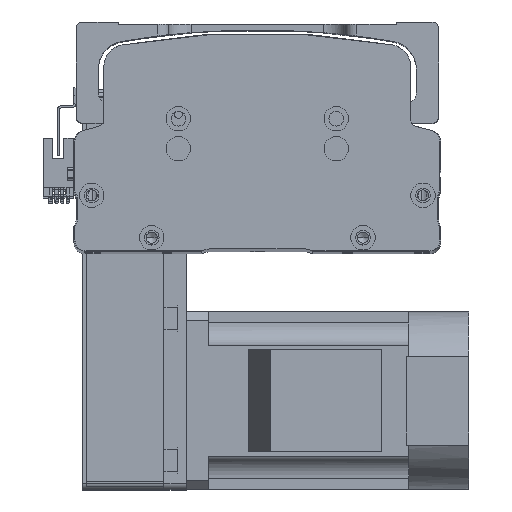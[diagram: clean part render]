
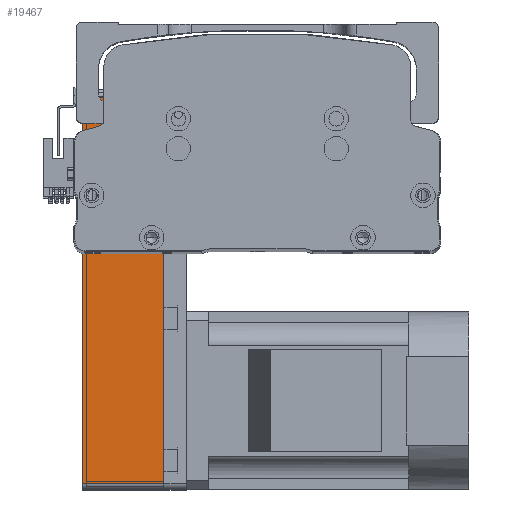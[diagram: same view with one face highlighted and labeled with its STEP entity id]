
A CAD part, top view. The second image highlights one B-rep face of the part: STEP entity #19467.
In plain terms, the highlighted planar face has unit normal (0, 0, 1) as drawn and (0, 1, 0) by its records, which use the part's own axes.
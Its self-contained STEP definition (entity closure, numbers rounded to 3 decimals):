
#863 = VECTOR ( 'NONE', #33488, 1000. ) ;
#1543 = VECTOR ( 'NONE', #54581, 1000. ) ;
#2127 = CARTESIAN_POINT ( 'NONE',  ( -87., 40., 0. ) ) ;
#3218 = VECTOR ( 'NONE', #17682, 1000. ) ;
#3476 = CARTESIAN_POINT ( 'NONE',  ( 87., 40., 36.5 ) ) ;
#3749 = DIRECTION ( 'NONE',  ( -1., 0., 0. ) ) ;
#7232 = PLANE ( 'NONE',  #52583 ) ;
#9280 = EDGE_CURVE ( 'NONE', #15913, #13085, #50510, .T. ) ;
#10307 = CARTESIAN_POINT ( 'NONE',  ( 87., 40., 0. ) ) ;
#10448 = ORIENTED_EDGE ( 'NONE', *, *, #37243, .T. ) ;
#11007 = CARTESIAN_POINT ( 'NONE',  ( 87., 40., 36.5 ) ) ;
#11866 = VECTOR ( 'NONE', #3749, 1000. ) ;
#13085 = VERTEX_POINT ( 'NONE', #40908 ) ;
#14398 = LINE ( 'NONE', #11007, #1543 ) ;
#15913 = VERTEX_POINT ( 'NONE', #3476 ) ;
#16069 = LINE ( 'NONE', #32078, #3218 ) ;
#16938 = DIRECTION ( 'NONE',  ( 0., -1., 0. ) ) ;
#17682 = DIRECTION ( 'NONE',  ( -1., 0., 0. ) ) ;
#19467 = ADVANCED_FACE ( 'NONE', ( #19824 ), #7232, .F. ) ;
#19824 = FACE_OUTER_BOUND ( 'NONE', #38682, .T. ) ;
#28828 = VERTEX_POINT ( 'NONE', #2127 ) ;
#32078 = CARTESIAN_POINT ( 'NONE',  ( 90., 40., 0. ) ) ;
#32724 = CARTESIAN_POINT ( 'NONE',  ( 90., 40., 36.5 ) ) ;
#33488 = DIRECTION ( 'NONE',  ( 0., 0., 1. ) ) ;
#35643 = ORIENTED_EDGE ( 'NONE', *, *, #47583, .T. ) ;
#35833 = ORIENTED_EDGE ( 'NONE', *, *, #9280, .F. ) ;
#36205 = CARTESIAN_POINT ( 'NONE',  ( 90., 40., 36.5 ) ) ;
#37243 = EDGE_CURVE ( 'NONE', #39120, #28828, #16069, .T. ) ;
#37916 = EDGE_CURVE ( 'NONE', #28828, #13085, #39504, .T. ) ;
#38682 = EDGE_LOOP ( 'NONE', ( #10448, #60100, #35833, #35643 ) ) ;
#39120 = VERTEX_POINT ( 'NONE', #10307 ) ;
#39504 = LINE ( 'NONE', #47902, #863 ) ;
#40908 = CARTESIAN_POINT ( 'NONE',  ( -87., 40., 36.5 ) ) ;
#47583 = EDGE_CURVE ( 'NONE', #15913, #39120, #14398, .T. ) ;
#47902 = CARTESIAN_POINT ( 'NONE',  ( -87., 40., 36.5 ) ) ;
#50510 = LINE ( 'NONE', #32724, #11866 ) ;
#50837 = DIRECTION ( 'NONE',  ( 1., 0., 0. ) ) ;
#52583 = AXIS2_PLACEMENT_3D ( 'NONE', #36205, #16938, #50837 ) ;
#54581 = DIRECTION ( 'NONE',  ( 0., 0., -1. ) ) ;
#60100 = ORIENTED_EDGE ( 'NONE', *, *, #37916, .T. ) ;
